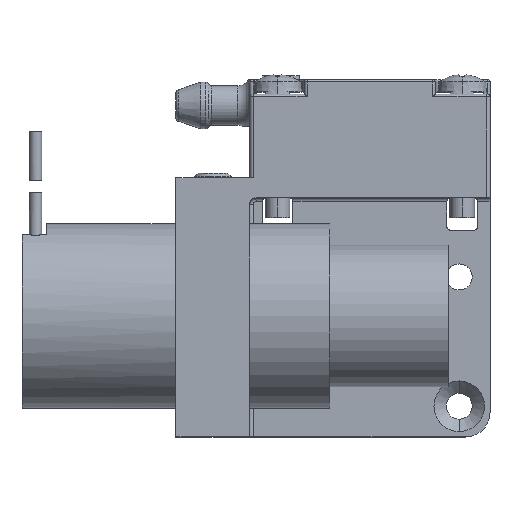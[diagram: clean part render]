
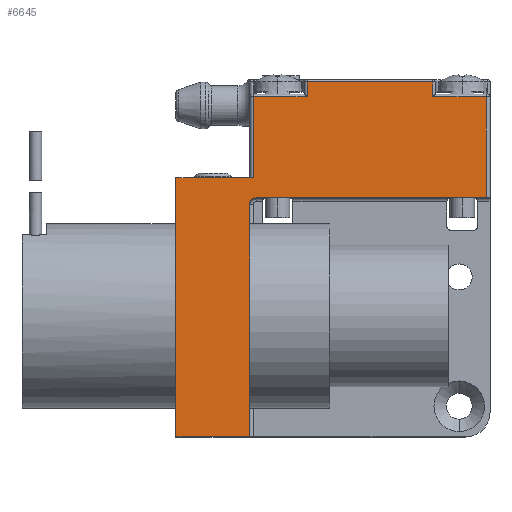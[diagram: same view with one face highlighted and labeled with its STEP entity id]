
A CAD part, top view. The second image highlights one B-rep face of the part: STEP entity #6645.
In plain terms, the highlighted planar face has unit normal (0, 0, 1).
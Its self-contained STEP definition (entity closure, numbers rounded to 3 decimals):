
#31=DIRECTION('',(1.,0.,0.));
#32=VECTOR('',#31,18.7);
#33=CARTESIAN_POINT('',(-9.25,9.6,9.75));
#34=LINE('',#33,#32);
#191=DIRECTION('',(0.,1.,0.));
#192=VECTOR('',#191,8.2);
#193=CARTESIAN_POINT('',(9.45,9.6,9.75));
#194=LINE('',#193,#192);
#199=CARTESIAN_POINT('',(-9.25,9.1,9.75));
#200=DIRECTION('',(0.,0.,1.));
#201=DIRECTION('',(0.,1.,0.));
#202=AXIS2_PLACEMENT_3D('',#199,#200,#201);
#204=DIRECTION('',(0.,-1.,0.));
#205=VECTOR('',#204,18.9);
#206=CARTESIAN_POINT('',(-9.75,9.1,9.75));
#207=LINE('',#206,#205);
#212=DIRECTION('',(0.,-1.,0.));
#213=VECTOR('',#212,6.6);
#214=CARTESIAN_POINT('',(-9.45,17.8,9.75));
#215=LINE('',#214,#213);
#2904=DIRECTION('',(-1.,0.,0.));
#2905=VECTOR('',#2904,10.2);
#2906=CARTESIAN_POINT('',(5.1,19.,9.75));
#2907=LINE('',#2906,#2905);
#2927=DIRECTION('',(0.,1.,0.));
#2928=VECTOR('',#2927,1.2);
#2929=CARTESIAN_POINT('',(5.1,17.8,9.75));
#2930=LINE('',#2929,#2928);
#2944=DIRECTION('',(-1.,0.,0.));
#2945=VECTOR('',#2944,4.35);
#2946=CARTESIAN_POINT('',(9.45,17.8,9.75));
#2947=LINE('',#2946,#2945);
#3017=DIRECTION('',(0.,-1.,0.));
#3018=VECTOR('',#3017,1.2);
#3019=CARTESIAN_POINT('',(-5.1,19.,9.75));
#3020=LINE('',#3019,#3018);
#3025=DIRECTION('',(-1.,0.,0.));
#3026=VECTOR('',#3025,4.35);
#3027=CARTESIAN_POINT('',(-5.1,17.8,9.75));
#3028=LINE('',#3027,#3026);
#3785=DIRECTION('',(-1.,0.,0.));
#3786=VECTOR('',#3785,6.3);
#3787=CARTESIAN_POINT('',(-9.45,11.2,9.75));
#3788=LINE('',#3787,#3786);
#3803=DIRECTION('',(0.,-1.,0.));
#3804=VECTOR('',#3803,21.);
#3805=CARTESIAN_POINT('',(-15.75,11.2,9.75));
#3806=LINE('',#3805,#3804);
#3903=DIRECTION('',(1.,0.,0.));
#3904=VECTOR('',#3903,6.);
#3905=CARTESIAN_POINT('',(-15.75,-9.8,9.75));
#3906=LINE('',#3905,#3904);
#5432=CARTESIAN_POINT('',(9.45,9.6,9.75));
#5433=CARTESIAN_POINT('',(9.45,17.8,9.75));
#5434=VERTEX_POINT('',#5432);
#5435=VERTEX_POINT('',#5433);
#5436=CARTESIAN_POINT('',(-9.45,17.8,9.75));
#5437=CARTESIAN_POINT('',(-9.45,11.2,9.75));
#5438=VERTEX_POINT('',#5436);
#5439=VERTEX_POINT('',#5437);
#5440=CARTESIAN_POINT('',(-5.1,17.8,9.75));
#5441=VERTEX_POINT('',#5440);
#5442=CARTESIAN_POINT('',(-5.1,19.,9.75));
#5443=VERTEX_POINT('',#5442);
#5444=CARTESIAN_POINT('',(5.1,19.,9.75));
#5445=VERTEX_POINT('',#5444);
#5446=CARTESIAN_POINT('',(5.1,17.8,9.75));
#5447=VERTEX_POINT('',#5446);
#5448=CARTESIAN_POINT('',(-9.25,9.6,9.75));
#5449=VERTEX_POINT('',#5448);
#5450=CARTESIAN_POINT('',(-9.75,9.1,9.75));
#5451=VERTEX_POINT('',#5450);
#5452=CARTESIAN_POINT('',(-9.75,-9.8,9.75));
#5453=VERTEX_POINT('',#5452);
#5454=CARTESIAN_POINT('',(-15.75,-9.8,9.75));
#5455=VERTEX_POINT('',#5454);
#5456=CARTESIAN_POINT('',(-15.75,11.2,9.75));
#5457=VERTEX_POINT('',#5456);
#6614=CARTESIAN_POINT('',(9.75,-9.8,9.75));
#6615=DIRECTION('',(0.,0.,1.));
#6616=DIRECTION('',(0.,1.,0.));
#6617=AXIS2_PLACEMENT_3D('',#6614,#6615,#6616);
#6618=PLANE('',#6617);
#6620=ORIENTED_EDGE('',*,*,#6619,.F.);
#6622=ORIENTED_EDGE('',*,*,#6621,.F.);
#6624=ORIENTED_EDGE('',*,*,#6623,.F.);
#6626=ORIENTED_EDGE('',*,*,#6625,.F.);
#6628=ORIENTED_EDGE('',*,*,#6627,.F.);
#6630=ORIENTED_EDGE('',*,*,#6629,.F.);
#6631=ORIENTED_EDGE('',*,*,#6605,.F.);
#6632=ORIENTED_EDGE('',*,*,#6429,.F.);
#6634=ORIENTED_EDGE('',*,*,#6633,.T.);
#6636=ORIENTED_EDGE('',*,*,#6635,.T.);
#6638=ORIENTED_EDGE('',*,*,#6637,.F.);
#6640=ORIENTED_EDGE('',*,*,#6639,.F.);
#6642=ORIENTED_EDGE('',*,*,#6641,.F.);
#6643=EDGE_LOOP('',(#6620,#6622,#6624,#6626,#6628,#6630,#6631,#6632,#6634,#6636,
#6638,#6640,#6642));
#6644=FACE_OUTER_BOUND('',#6643,.F.);
#203=CIRCLE('',#202,0.5);
#6429=EDGE_CURVE('',#5449,#5434,#34,.T.);
#6605=EDGE_CURVE('',#5434,#5435,#194,.T.);
#6619=EDGE_CURVE('',#5438,#5439,#215,.T.);
#6621=EDGE_CURVE('',#5441,#5438,#3028,.T.);
#6623=EDGE_CURVE('',#5443,#5441,#3020,.T.);
#6625=EDGE_CURVE('',#5445,#5443,#2907,.T.);
#6627=EDGE_CURVE('',#5447,#5445,#2930,.T.);
#6629=EDGE_CURVE('',#5435,#5447,#2947,.T.);
#6633=EDGE_CURVE('',#5449,#5451,#203,.T.);
#6635=EDGE_CURVE('',#5451,#5453,#207,.T.);
#6637=EDGE_CURVE('',#5455,#5453,#3906,.T.);
#6639=EDGE_CURVE('',#5457,#5455,#3806,.T.);
#6641=EDGE_CURVE('',#5439,#5457,#3788,.T.);
#6645=ADVANCED_FACE('',(#6644),#6618,.T.);
